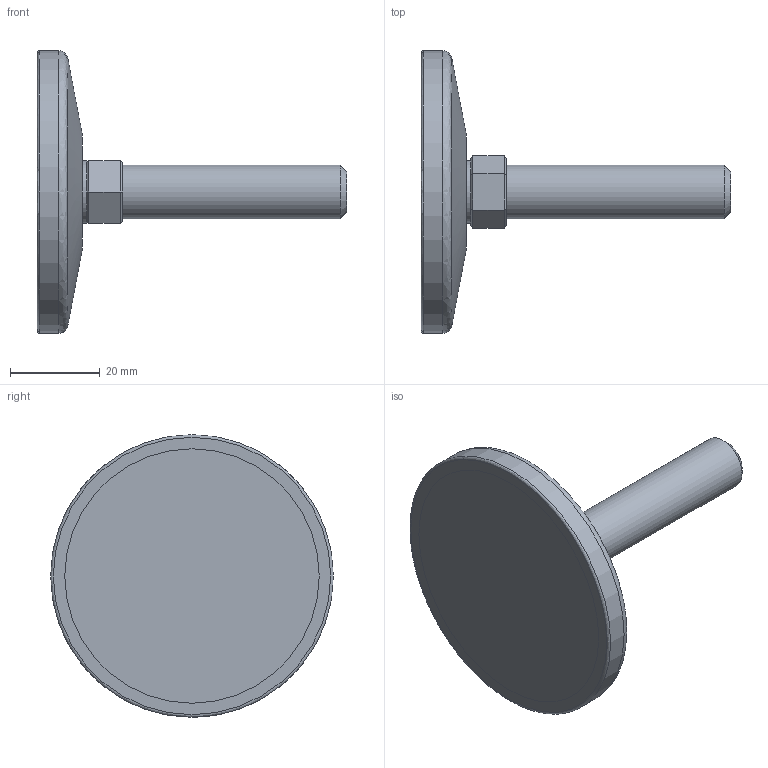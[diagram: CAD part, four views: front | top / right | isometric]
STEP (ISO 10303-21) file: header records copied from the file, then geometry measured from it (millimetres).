
FILE_DESCRIPTION(('STEP AP203'),'2;1');
FILE_NAME('15407.stp','2017-04-24T09:29:05',(''),(''),'2008.1.107','THINKDESIGN','');
FILE_SCHEMA(('CONFIG_CONTROL_DESIGN'));
Length unit declared in the file: millimetre
Bounding box: 69 x 63 x 63 mm (x, y, z)
Volume: 32076.1 mm3; surface area: 16684.1 mm2
Topology: 5 solids, 5 shells, 43 faces, 96 edges, 66 vertices
Faces by surface type: bspline 19, plane 18, cylinder 6
Full cylindrical faces by diameter (mm): 10 x1, 12 x1, 14 x1, 56.7 x2, 63 x1
Entity records: 1735 total; most frequent: CARTESIAN_POINT 604, ORIENTED_EDGE 190, DIRECTION 187, EDGE_CURVE 95, AXIS2_PLACEMENT_3D 67, VERTEX_POINT 64, VECTOR 53, LINE 53
